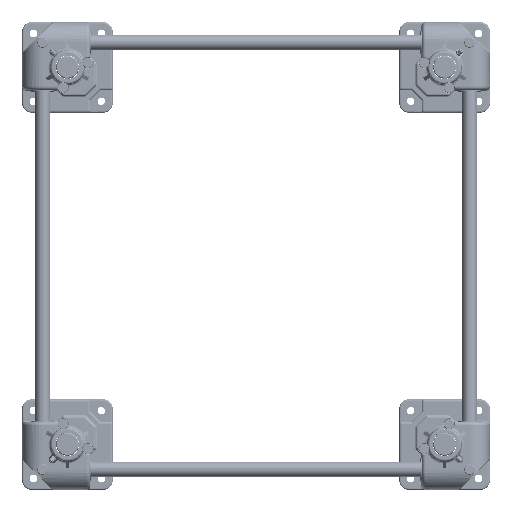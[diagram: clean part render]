
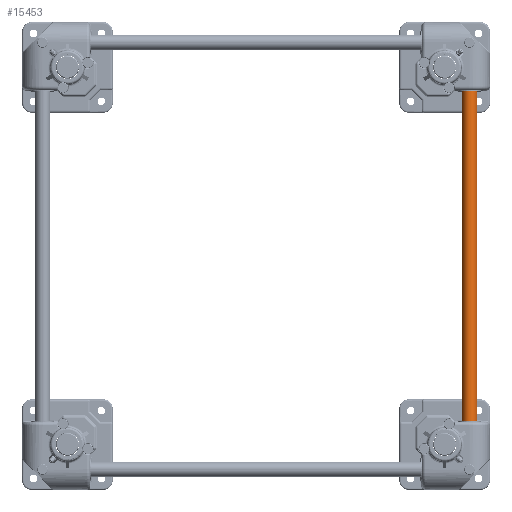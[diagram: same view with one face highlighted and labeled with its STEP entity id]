
A CAD part, top view. The second image highlights one B-rep face of the part: STEP entity #15453.
In plain terms, the highlighted cylindrical face has radius 10 mm (diameter 20 mm), a full revolution.
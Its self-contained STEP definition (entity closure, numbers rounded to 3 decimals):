
#15453=ADVANCED_FACE('',(#35525,#35526),#35527,.T.);
#35525=FACE_OUTER_BOUND('',#75432,.T.);
#35526=FACE_OUTER_BOUND('',#75433,.T.);
#35527=CYLINDRICAL_SURFACE('',#75434,10.0);
#75432=EDGE_LOOP('',(#158450));
#75433=EDGE_LOOP('',(#158451));
#75434=AXIS2_PLACEMENT_3D('',#158452,#158453,#158454);
#158450=ORIENTED_EDGE('',*,*,#185665,.T.);
#158451=ORIENTED_EDGE('',*,*,#185662,.T.);
#158452=CARTESIAN_POINT('',(0.0,0.,50.0));
#158453=DIRECTION('',(0.0,0.0,-1.0));
#158454=DIRECTION('',(-1.0,0.0,0.0));
#185662=EDGE_CURVE('',#230650,#230650,#230651,.F.);
#185665=EDGE_CURVE('',#230656,#230656,#230657,.T.);
#230650=VERTEX_POINT('',#314470);
#230651=CIRCLE('',#314471,10.0);
#230656=VERTEX_POINT('',#314476);
#230657=CIRCLE('',#314477,10.0);
#314470=CARTESIAN_POINT('',(10.0,0.,49.0));
#314471=AXIS2_PLACEMENT_3D('',#345842,#345843,#345844);
#314476=CARTESIAN_POINT('',(10.0,0.,-486.4));
#314477=AXIS2_PLACEMENT_3D('',#345851,#345852,#345853);
#345842=CARTESIAN_POINT('',(0.0,0.,49.0));
#345843=DIRECTION('',(0.0,0.0,1.0));
#345844=DIRECTION('',(1.0,0.0,0.0));
#345851=CARTESIAN_POINT('',(0.0,0.,-486.4));
#345852=DIRECTION('',(0.0,0.0,1.0));
#345853=DIRECTION('',(1.0,0.0,0.0));
